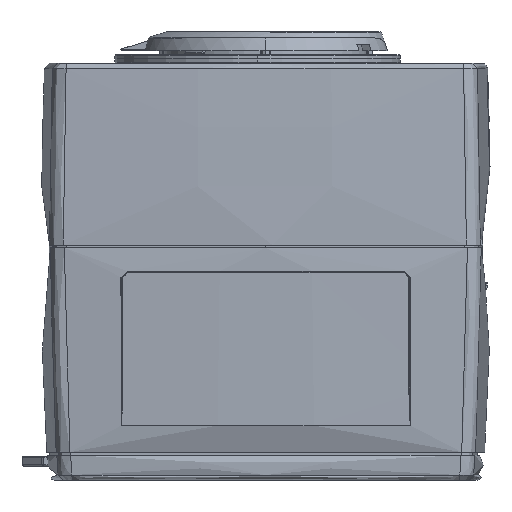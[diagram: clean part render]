
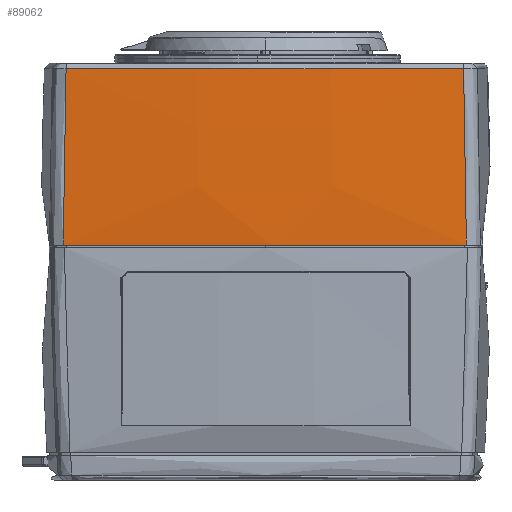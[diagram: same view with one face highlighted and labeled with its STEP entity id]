
A CAD part, left-side view. The second image highlights one B-rep face of the part: STEP entity #89062.
In plain terms, the highlighted free-form (B-spline) face has degree [3, 3] with [4, 4] control points.
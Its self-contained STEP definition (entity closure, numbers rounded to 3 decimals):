
#2064 = CARTESIAN_POINT ( 'NONE',  ( -159.31, 234.5, 20.554 ) ) ;
#15401 = ORIENTED_EDGE ( 'NONE', *, *, #115512, .T. ) ;
#18861 = CARTESIAN_POINT ( 'NONE',  ( -158.836, 220.707, 9.839 ) ) ;
#34074 = CARTESIAN_POINT ( 'NONE',  ( -159.31, 234.5, 9.839 ) ) ;
#42164 = CIRCLE ( 'NONE', #317040, 449.447 ) ;
#54176 = EDGE_LOOP ( 'NONE', ( #429838, #82107, #446987, #217853, #15401 ) ) ;
#66167 = CARTESIAN_POINT ( 'NONE',  ( -157.182, 259.248, 9.839 ) ) ;
#69255 =( BOUNDED_SURFACE ( )  B_SPLINE_SURFACE ( 3, 3, ( 
 ( #292333, #142374, #403042, #188906 ),
 ( #70999, #444726, #179247, #442310 ),
 ( #110326, #2064, #184087, #338902 ),
 ( #66167, #34074, #216110, #294743 ) ),
 .UNSPECIFIED., .F., .F., .T. ) 
 B_SPLINE_SURFACE_WITH_KNOTS ( ( 4, 4 ),
 ( 4, 4 ),
 ( 0., 1. ),
 ( 0., 1. ),
 .UNSPECIFIED. ) 
 GEOMETRIC_REPRESENTATION_ITEM ( )  RATIONAL_B_SPLINE_SURFACE ( (
 ( 1., 0.998, 0.998, 1.),
 ( 1., 0.998, 0.998, 1.),
 ( 1., 0.998, 0.998, 1.),
 ( 1., 0.998, 0.998, 1.) ) ) 
 REPRESENTATION_ITEM ( '' )  SURFACE ( )  );
#70999 = CARTESIAN_POINT ( 'NONE',  ( -156.999, 259.232, 31.266 ) ) ;
#82107 = ORIENTED_EDGE ( 'NONE', *, *, #247950, .T. ) ;
#89062 = ADVANCED_FACE ( 'NONE', ( #407865 ), #69255, .T. ) ;
#91538 = B_SPLINE_CURVE_WITH_KNOTS ( 'NONE', 3,
 ( #397479, #478474, #141679, #286793 ),
 .UNSPECIFIED., .F., .F.,
 ( 4, 4 ),
 ( 0., 1. ),
 .UNSPECIFIED. ) ;
#93611 = EDGE_CURVE ( 'NONE', #316798, #452703, #207097, .T. ) ;
#105310 = VERTEX_POINT ( 'NONE', #182618 ) ;
#105911 = CARTESIAN_POINT ( 'NONE',  ( -157.444, 185.34, 9.839 ) ) ;
#110326 = CARTESIAN_POINT ( 'NONE',  ( -157.182, 259.248, 20.554 ) ) ;
#115512 = EDGE_CURVE ( 'NONE', #452703, #295976, #148221, .T. ) ;
#131206 = CARTESIAN_POINT ( 'NONE',  ( -158.836, 233.426, 9.839 ) ) ;
#141679 = CARTESIAN_POINT ( 'NONE',  ( -157.272, 185.511, 31.283 ) ) ;
#142374 = CARTESIAN_POINT ( 'NONE',  ( -158.756, 234.483, 41.974 ) ) ;
#148221 =( BOUNDED_CURVE ( )  B_SPLINE_CURVE ( 3, ( #18861, #200903, #242678, #353323 ),
 .UNSPECIFIED., .F., .T. ) 
 B_SPLINE_CURVE_WITH_KNOTS ( ( 4, 4 ),
 ( 0., 1. ),
 .UNSPECIFIED. ) 
 CURVE ( )  GEOMETRIC_REPRESENTATION_ITEM ( )  RATIONAL_B_SPLINE_CURVE ( ( 1., 0.999, 0.999, 1. ) ) 
 REPRESENTATION_ITEM ( '' )  );
#148472 = CARTESIAN_POINT ( 'NONE',  ( -156.709, 258.291, 41.974 ) ) ;
#179247 = CARTESIAN_POINT ( 'NONE',  ( -159.201, 209.665, 31.266 ) ) ;
#180958 = CARTESIAN_POINT ( 'NONE',  ( -158.836, 220.707, 9.839 ) ) ;
#182618 = CARTESIAN_POINT ( 'NONE',  ( -156.93, 185.852, 41.974 ) ) ;
#184087 = CARTESIAN_POINT ( 'NONE',  ( -159.386, 209.661, 20.554 ) ) ;
#188906 = CARTESIAN_POINT ( 'NONE',  ( -156.858, 184.944, 41.974 ) ) ;
#200903 = CARTESIAN_POINT ( 'NONE',  ( -158.836, 208.903, 9.839 ) ) ;
#207097 =( BOUNDED_CURVE ( )  B_SPLINE_CURVE ( 3, ( #318047, #281147, #131206, #207378 ),
 .UNSPECIFIED., .F., .F. ) 
 B_SPLINE_CURVE_WITH_KNOTS ( ( 4, 4 ),
 ( 0., 1. ),
 .UNSPECIFIED. ) 
 CURVE ( )  GEOMETRIC_REPRESENTATION_ITEM ( )  RATIONAL_B_SPLINE_CURVE ( ( 1., 0.999, 0.999, 1. ) ) 
 REPRESENTATION_ITEM ( '' )  );
#207378 = CARTESIAN_POINT ( 'NONE',  ( -158.836, 220.707, 9.839 ) ) ;
#216110 = CARTESIAN_POINT ( 'NONE',  ( -159.386, 209.661, 9.839 ) ) ;
#217853 = ORIENTED_EDGE ( 'NONE', *, *, #93611, .T. ) ;
#225244 = CARTESIAN_POINT ( 'NONE',  ( 291.164, 220.707, 41.974 ) ) ;
#242678 = CARTESIAN_POINT ( 'NONE',  ( -158.372, 197.108, 9.839 ) ) ;
#247950 = EDGE_CURVE ( 'NONE', #105310, #464803, #42164, .T. ) ;
#264534 = B_SPLINE_CURVE_WITH_KNOTS ( 'NONE', 3,
 ( #148472, #377036, #342558, #298416 ),
 .UNSPECIFIED., .F., .F.,
 ( 4, 4 ),
 ( 0., 1. ),
 .UNSPECIFIED. ) ;
#281147 = CARTESIAN_POINT ( 'NONE',  ( -158.297, 246.134, 9.839 ) ) ;
#286793 = CARTESIAN_POINT ( 'NONE',  ( -156.93, 185.852, 41.974 ) ) ;
#292333 = CARTESIAN_POINT ( 'NONE',  ( -156.632, 259.2, 41.974 ) ) ;
#294743 = CARTESIAN_POINT ( 'NONE',  ( -157.409, 184.9, 9.839 ) ) ;
#295976 = VERTEX_POINT ( 'NONE', #105911 ) ;
#298416 = CARTESIAN_POINT ( 'NONE',  ( -157.22, 258.808, 9.839 ) ) ;
#316798 = VERTEX_POINT ( 'NONE', #482257 ) ;
#317040 = AXIS2_PLACEMENT_3D ( 'NONE', #225244, #375246, #338338 ) ;
#318047 = CARTESIAN_POINT ( 'NONE',  ( -157.22, 258.808, 9.839 ) ) ;
#338338 = DIRECTION ( 'NONE',  ( 1., 0., 0. ) ) ;
#338902 = CARTESIAN_POINT ( 'NONE',  ( -157.409, 184.9, 20.554 ) ) ;
#342558 = CARTESIAN_POINT ( 'NONE',  ( -157.22, 258.808, 20.569 ) ) ;
#343921 = EDGE_CURVE ( 'NONE', #464803, #316798, #264534, .T. ) ;
#353323 = CARTESIAN_POINT ( 'NONE',  ( -157.444, 185.34, 9.839 ) ) ;
#370389 = EDGE_CURVE ( 'NONE', #295976, #105310, #91538, .T. ) ;
#372741 = CARTESIAN_POINT ( 'NONE',  ( -156.709, 258.291, 41.974 ) ) ;
#375246 = DIRECTION ( 'NONE',  ( 0., 0., -1. ) ) ;
#377036 = CARTESIAN_POINT ( 'NONE',  ( -157.049, 258.635, 31.282 ) ) ;
#397479 = CARTESIAN_POINT ( 'NONE',  ( -157.444, 185.34, 9.839 ) ) ;
#403042 = CARTESIAN_POINT ( 'NONE',  ( -158.832, 209.674, 41.974 ) ) ;
#407865 = FACE_OUTER_BOUND ( 'NONE', #54176, .T. ) ;
#429838 = ORIENTED_EDGE ( 'NONE', *, *, #370389, .T. ) ;
#442310 = CARTESIAN_POINT ( 'NONE',  ( -157.225, 184.915, 31.266 ) ) ;
#444726 = CARTESIAN_POINT ( 'NONE',  ( -159.125, 234.494, 31.266 ) ) ;
#446987 = ORIENTED_EDGE ( 'NONE', *, *, #343921, .T. ) ;
#452703 = VERTEX_POINT ( 'NONE', #180958 ) ;
#464803 = VERTEX_POINT ( 'NONE', #372741 ) ;
#478474 = CARTESIAN_POINT ( 'NONE',  ( -157.444, 185.34, 20.57 ) ) ;
#482257 = CARTESIAN_POINT ( 'NONE',  ( -157.22, 258.808, 9.839 ) ) ;
